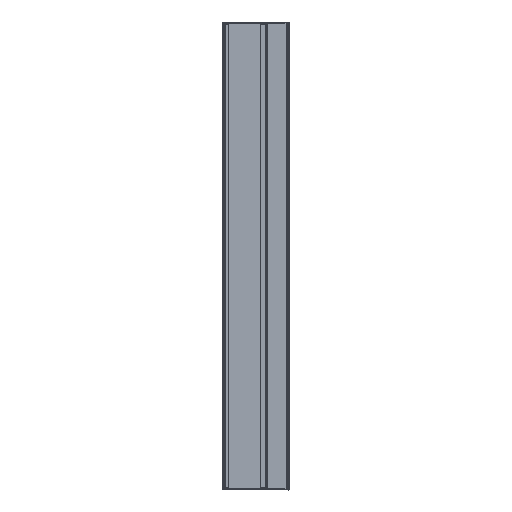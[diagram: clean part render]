
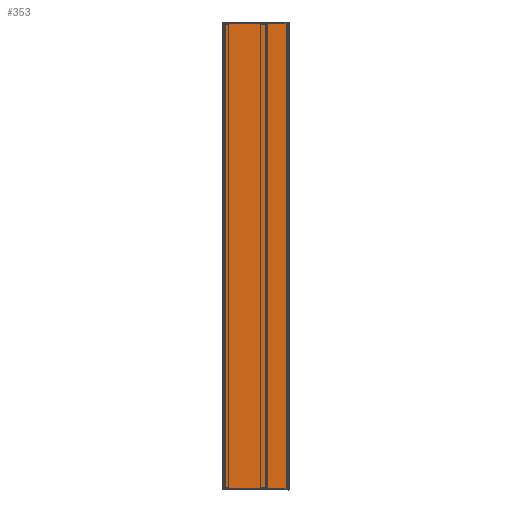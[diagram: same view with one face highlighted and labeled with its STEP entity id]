
A CAD part, left-side view. The second image highlights one B-rep face of the part: STEP entity #353.
In plain terms, the highlighted planar face has unit normal (-1, 0, 0).
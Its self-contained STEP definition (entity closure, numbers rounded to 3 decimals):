
#353=ADVANCED_FACE('',(#1456),#1458,.T.);
#1456=FACE_BOUND('',#1457,.T.);
#1457=EDGE_LOOP('',(#6565,#6566,#6567,#6568));
#1458=PLANE('',#1459);
#1459=AXIS2_PLACEMENT_3D('',#1460,#1461,#1462);
#1460=CARTESIAN_POINT('',(-17.5,4.,-278.));
#1461=DIRECTION('',(-1.,0.,0.));
#1462=DIRECTION('',(0.,-1.,0.));
#6565=ORIENTED_EDGE('',*,*,#10800,.T.);
#6566=ORIENTED_EDGE('',*,*,#10799,.T.);
#6567=ORIENTED_EDGE('',*,*,#10801,.T.);
#6568=ORIENTED_EDGE('',*,*,#10802,.F.);
#10799=EDGE_CURVE('',#12959,#12961,#12963,.T.);
#10800=EDGE_CURVE('',#12964,#12959,#12965,.F.);
#10801=EDGE_CURVE('',#12961,#12966,#12967,.F.);
#10802=EDGE_CURVE('',#12964,#12966,#12968,.T.);
#12959=VERTEX_POINT('',#16621);
#12961=VERTEX_POINT('',#16626);
#12963=LINE('',#16631,#16632);
#12964=VERTEX_POINT('',#16634);
#12965=LINE('',#16635,#16636);
#12966=VERTEX_POINT('',#16638);
#12967=LINE('',#16639,#16640);
#12968=LINE('',#16642,#16643);
#16621=CARTESIAN_POINT('',(-17.5,-73.75,-278.));
#16626=CARTESIAN_POINT('',(-17.5,-73.75,278.));
#16631=CARTESIAN_POINT('',(-17.5,-73.75,-278.));
#16632=VECTOR('',#16633,1.);
#16633=DIRECTION('',(0.,0.,1.));
#16634=CARTESIAN_POINT('',(-17.5,4.,-278.));
#16635=CARTESIAN_POINT('',(-17.5,-73.75,-278.));
#16636=VECTOR('',#16637,1.);
#16637=DIRECTION('',(0.,1.,0.));
#16638=CARTESIAN_POINT('',(-17.5,4.,278.));
#16639=CARTESIAN_POINT('',(-17.5,4.,278.));
#16640=VECTOR('',#16641,1.);
#16641=DIRECTION('',(0.,-1.,0.));
#16642=CARTESIAN_POINT('',(-17.5,4.,-278.));
#16643=VECTOR('',#16644,1.);
#16644=DIRECTION('',(0.,0.,1.));
